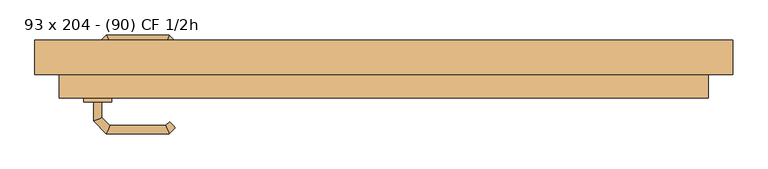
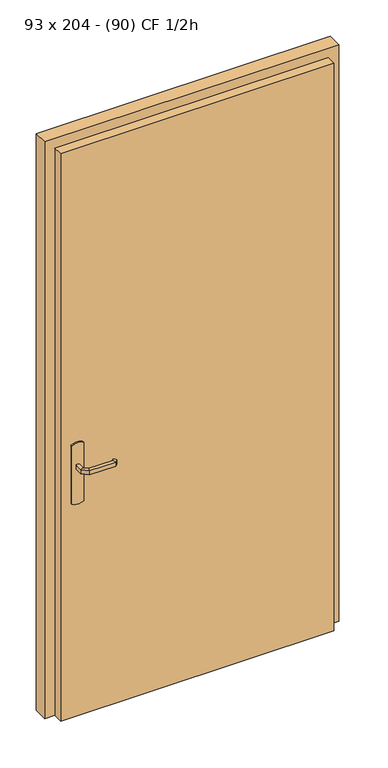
"""IFC4 building model written with IfcOpenShell, lengths in millimetres: door geometry, C&L Int. simple vantail (Angle variable + Dormant fixe) : 93 x 204 - (90) CF 1/2h."""

from ifc_helpers import new_model, si_unit, point, frame, frame_2d, origin, origin_with_axes, place, context, project, spatial, polyline, circle_curve, ellipse_curve, trimmed, segment, composite_curve, outline, extrude, faceted_brep, source, transform, mapped, element, save
from ifc_brep_helpers import plane_surface, cylinder_surface, advanced_brep


def door_93_x_204_90_cf_1_2h_cdce06b2(model_context):
    return source(origin(), model_context, "Body", "SolidModel", [
        advanced_brep(
        [(-404.0, -38.0, 893.0), (-404.0, -38.0, 907.0), (-416.0, -38.0, 907.0), (-416.0, -38.0, 893.0), (-404.0, -15.5147955, 893.0), (-404.0, -15.5147955, 907.0), (-416.0, -10.5442327, 907.0), (-416.0, -10.5442327, 893.0), (-392.5147186, -4.0295141, 893.0), (-392.5147186, -4.0295141, 907.0), (-397.4852814, 7.9704859, 907.0), (-397.4852814, 7.9704859, 893.0), (-312.4394977, -4.0295141, 893.0), (-312.4394977, -4.0295141, 907.0), (-307.468935, 7.9704859, 907.0), (-307.468935, 7.9704859, 893.0), (-307.1257892, -9.3432226, 893.0), (-298.6405078, -0.8579412, 893.0), (-298.6405078, -0.8579412, 907.0), (-307.1257892, -9.3432226, 907.0)],
        [
            (0, 1),
            (1, 2, circle_curve(frame((-410.0, -38.0, 886.9542278), z_axis=(0.0, -1.0, 0.0), x_axis=(-1.0, 0.0, 0.0)), 20.9244589)),
            (2, 3),
            (3, 0, circle_curve(frame((-410.0, -38.0, 913.0457722), z_axis=(0.0, -1.0, 0.0), x_axis=(-1.0, 0.0, 0.0)), 20.9244589)),
            (0, 4),
            (4, 5),
            (5, 1),
            (5, 6, ellipse_curve(frame((-410.0, -13.0295141, 886.9542278), z_axis=(-0.3826834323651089, -0.9238795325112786, 0.0), x_axis=(0.9238795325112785, -0.3826834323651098, 0.0)), 22.6484711, 20.9244589)),
            (6, 2),
            (6, 7),
            (7, 3),
            (7, 4, ellipse_curve(frame((-410.0, -13.0295141, 913.0457722), z_axis=(-0.3826834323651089, -0.9238795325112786, 0.0), x_axis=(0.9238795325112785, -0.3826834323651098, 0.0)), 22.6484711, 20.9244589)),
            (4, 8),
            (8, 9),
            (9, 5),
            (9, 10, ellipse_curve(frame((-395.0, 1.9704859, 886.9542278), z_axis=(-0.9238795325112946, -0.38268343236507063, 0.0), x_axis=(0.3826834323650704, -0.9238795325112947, 0.0)), 22.6484711, 20.9244589)),
            (10, 6),
            (10, 11),
            (11, 7),
            (11, 8, ellipse_curve(frame((-395.0, 1.9704859, 913.0457722), z_axis=(-0.9238795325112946, -0.38268343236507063, 0.0), x_axis=(0.3826834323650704, -0.9238795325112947, 0.0)), 22.6484711, 20.9244589)),
            (8, 12),
            (12, 13),
            (13, 9),
            (13, 14, ellipse_curve(frame((-309.9542163, 1.9704859, 886.9542278), z_axis=(-0.9238795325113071, 0.38268343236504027, 0.0), x_axis=(-0.38268343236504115, -0.9238795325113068, 0.0)), 22.6484711, 20.9244589)),
            (14, 10),
            (14, 15),
            (15, 11),
            (15, 12, ellipse_curve(frame((-309.9542163, 1.9704859, 913.0457722), z_axis=(-0.9238795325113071, 0.38268343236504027, 0.0), x_axis=(-0.38268343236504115, -0.9238795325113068, 0.0)), 22.6484711, 20.9244589)),
            (16, 17, circle_curve(frame((-302.8831485, -5.1005819, 913.0457722), z_axis=(0.7071067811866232, -0.7071067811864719, 0.0), x_axis=(0.7071067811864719, 0.7071067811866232, 0.0)), 20.9244589)),
            (17, 18),
            (18, 19, circle_curve(frame((-302.8831485, -5.1005819, 886.9542278), z_axis=(0.7071067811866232, -0.7071067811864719, 0.0), x_axis=(0.7071067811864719, 0.7071067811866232, 0.0)), 20.9244589)),
            (19, 16),
            (12, 16),
            (19, 13),
            (18, 14),
            (17, 15),
        ],
        [
            plane_surface(frame((-419.2195445, -38.0, 900.0), z_axis=(0.0, -1.0, 0.0), x_axis=(0.0, 0.0, 1.0))),
            plane_surface(frame((-404.0, -38.0, 893.0), z_axis=(1.0, 0.0, 0.0), x_axis=(0.0, 1.0, 0.0))),
            cylinder_surface(frame((-410.0, -38.0, 886.9542278), z_axis=(0.0, -1.0, 0.0), x_axis=(-1.0, 0.0, 0.0)), 20.9244589),
            plane_surface(frame((-416.0, -38.0, 907.0), z_axis=(-1.0, 0.0, 0.0), x_axis=(0.0, 1.0, 0.0))),
            cylinder_surface(frame((-410.0, -38.0, 913.0457722), z_axis=(0.0, -1.0, 0.0), x_axis=(-1.0, 0.0, 0.0)), 20.9244589),
            plane_surface(frame((-404.0, -15.5147955, 893.0), z_axis=(0.707106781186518, -0.707106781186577, 0.0), x_axis=(0.707106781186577, 0.707106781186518, 0.0))),
            cylinder_surface(frame((-410.0, -13.0295141, 886.9542278), z_axis=(-0.7071067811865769, -0.7071067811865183, 0.0), x_axis=(-0.7071067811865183, 0.7071067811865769, 0.0)), 20.9244589),
            plane_surface(frame((-416.0, -10.5442327, 907.0), z_axis=(-0.7071067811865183, 0.7071067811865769, 0.0), x_axis=(0.7071067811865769, 0.7071067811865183, 0.0))),
            cylinder_surface(frame((-410.0, -13.0295141, 913.0457722), z_axis=(-0.7071067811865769, -0.7071067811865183, 0.0), x_axis=(-0.7071067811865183, 0.7071067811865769, 0.0)), 20.9244589),
            plane_surface(frame((-392.5147186, -4.0295141, 893.0), z_axis=(0.0, -1.0, 0.0), x_axis=(1.0, 0.0, 0.0))),
            cylinder_surface(frame((-395.0, 1.9704859, 886.9542278), z_axis=(-1.0, 0.0, 0.0), x_axis=(0.0, 1.0, 0.0)), 20.9244589),
            plane_surface(frame((-397.4852814, 7.9704859, 907.0), z_axis=(0.0, 1.0, 0.0), x_axis=(1.0, 0.0, 0.0))),
            cylinder_surface(frame((-395.0, 1.9704859, 913.0457722), z_axis=(-1.0, 0.0, 0.0), x_axis=(0.0, 1.0, 0.0)), 20.9244589),
            plane_surface(frame((-302.8831485, -5.1005819, 890.7804555), z_axis=(0.7071067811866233, -0.7071067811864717, 0.0), x_axis=(0.7071067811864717, 0.7071067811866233, 0.0))),
            plane_surface(frame((-312.4394977, -4.0295141, 893.0), z_axis=(-0.7071067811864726, -0.7071067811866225, 0.0), x_axis=(0.7071067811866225, -0.7071067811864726, 0.0))),
            cylinder_surface(frame((-309.9542163, 1.9704859, 886.9542278), z_axis=(-0.7071067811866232, 0.7071067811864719, 0.0), x_axis=(0.7071067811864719, 0.7071067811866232, 0.0)), 20.9244589),
            plane_surface(frame((-307.468935, 7.9704859, 907.0), z_axis=(0.7071067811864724, 0.7071067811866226, 0.0), x_axis=(0.7071067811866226, -0.7071067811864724, 0.0))),
            cylinder_surface(frame((-309.9542163, 1.9704859, 913.0457722), z_axis=(-0.7071067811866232, 0.7071067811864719, 0.0), x_axis=(0.7071067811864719, 0.7071067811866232, 0.0)), 20.9244589),
        ],
        [
            (0, [[1, 2, 3, 4]]),
            (1, [[-1, 5, 6, 7]]),
            (2, [[-2, -7, 8, 9]]),
            (3, [[-3, -9, 10, 11]]),
            (4, [[-4, -11, 12, -5]]),
            (5, [[-6, 13, 14, 15]]),
            (6, [[-8, -15, 16, 17]]),
            (7, [[-10, -17, 18, 19]]),
            (8, [[-12, -19, 20, -13]]),
            (9, [[-14, 21, 22, 23]]),
            (10, [[-16, -23, 24, 25]]),
            (11, [[-18, -25, 26, 27]]),
            (12, [[-20, -27, 28, -21]]),
            (13, [[29, 30, 31, 32]]),
            (14, [[-22, 33, -32, 34]]),
            (15, [[-24, -34, -31, 35]]),
            (16, [[-26, -35, -30, 36]]),
            (17, [[-28, -36, -29, -33]]),
        ],
    ),
        advanced_brep(
        [(-416.0, -88.0, 907.0), (-404.0, -88.0, 907.0), (-404.0, -88.0, 893.0), (-416.0, -88.0, 893.0), (-416.0, -115.6509507, 907.0), (-404.0, -110.680388, 907.0), (-404.0, -110.680388, 893.0), (-416.0, -115.6509507, 893.0), (-397.62279, -134.0281607, 907.0), (-392.6522273, -122.0281607, 907.0), (-392.6522273, -122.0281607, 893.0), (-397.62279, -134.0281607, 893.0), (-307.496078, -134.0281607, 907.0), (-312.4666408, -122.0281607, 907.0), (-312.4666408, -122.0281607, 893.0), (-307.496078, -134.0281607, 893.0), (-298.6676509, -125.1997336, 907.0), (-298.6676509, -125.1997336, 893.0), (-307.1529323, -116.7144522, 893.0), (-307.1529323, -116.7144522, 907.0)],
        [
            (0, 1, circle_curve(frame((-410.0, -88.0, 886.9542278), z_axis=(0.0, 1.0, 0.0), x_axis=(1.0, 0.0, 0.0)), 20.9244589)),
            (1, 2),
            (2, 3, circle_curve(frame((-410.0, -88.0, 913.0457722), z_axis=(0.0, 1.0, 0.0), x_axis=(1.0, 0.0, 0.0)), 20.9244589)),
            (3, 0),
            (0, 4),
            (4, 5, ellipse_curve(frame((-410.0, -113.1656693, 886.9542278), z_axis=(-0.3826834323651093, 0.9238795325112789, 0.0), x_axis=(0.9238795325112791, 0.38268343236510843, 0.0)), 22.6484711, 20.9244589)),
            (5, 1),
            (5, 6),
            (6, 2),
            (6, 7, ellipse_curve(frame((-410.0, -113.1656693, 913.0457722), z_axis=(-0.3826834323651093, 0.9238795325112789, 0.0), x_axis=(0.9238795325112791, 0.38268343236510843, 0.0)), 22.6484711, 20.9244589)),
            (7, 3),
            (7, 4),
            (4, 8),
            (8, 9, ellipse_curve(frame((-395.1375086, -128.0281607, 886.9542278), z_axis=(-0.9238795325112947, 0.38268343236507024, 0.0), x_axis=(0.3826834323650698, 0.9238795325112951, 0.0)), 22.6484711, 20.9244589)),
            (9, 5),
            (9, 10),
            (10, 6),
            (10, 11, ellipse_curve(frame((-395.1375086, -128.0281607, 913.0457722), z_axis=(-0.9238795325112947, 0.38268343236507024, 0.0), x_axis=(0.3826834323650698, 0.9238795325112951, 0.0)), 22.6484711, 20.9244589)),
            (11, 7),
            (11, 8),
            (8, 12),
            (12, 13, ellipse_curve(frame((-309.9813594, -128.0281607, 886.9542278), z_axis=(-0.9238795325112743, -0.3826834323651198, 0.0), x_axis=(-0.38268343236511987, 0.9238795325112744, 0.0)), 22.6484711, 20.9244589)),
            (13, 9),
            (13, 14),
            (14, 10),
            (14, 15, ellipse_curve(frame((-309.9813594, -128.0281607, 913.0457722), z_axis=(-0.9238795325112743, -0.3826834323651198, 0.0), x_axis=(-0.38268343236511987, 0.9238795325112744, 0.0)), 22.6484711, 20.9244589)),
            (15, 11),
            (15, 12),
            (16, 17),
            (17, 18, circle_curve(frame((-302.9102916, -120.9570929, 913.0457722), z_axis=(0.7071067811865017, 0.7071067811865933, 0.0), x_axis=(-0.7071067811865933, 0.7071067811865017, 0.0)), 20.9244589)),
            (18, 19),
            (19, 16, circle_curve(frame((-302.9102916, -120.9570929, 886.9542278), z_axis=(0.7071067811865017, 0.7071067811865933, 0.0), x_axis=(-0.7071067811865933, 0.7071067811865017, 0.0)), 20.9244589)),
            (12, 16),
            (19, 13),
            (18, 14),
            (17, 15),
        ],
        [
            plane_surface(frame((-419.2195445, -88.0, 900.0), z_axis=(0.0, 1.0, 0.0), x_axis=(0.0, 0.0, -1.0))),
            cylinder_surface(frame((-410.0, -88.0, 886.9542278), z_axis=(0.0, 1.0, 0.0), x_axis=(1.0, 0.0, 0.0)), 20.9244589),
            plane_surface(frame((-404.0, -88.0, 907.0), z_axis=(1.0, 0.0, 0.0), x_axis=(0.0, -1.0, 0.0))),
            cylinder_surface(frame((-410.0, -88.0, 913.0457722), z_axis=(0.0, 1.0, 0.0), x_axis=(1.0, 0.0, 0.0)), 20.9244589),
            plane_surface(frame((-416.0, -88.0, 893.0), z_axis=(-1.0, 0.0, 0.0), x_axis=(0.0, -1.0, 0.0))),
            cylinder_surface(frame((-410.0, -113.1656693, 886.9542278), z_axis=(-0.7071067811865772, 0.7071067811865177, 0.0), x_axis=(0.7071067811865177, 0.7071067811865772, 0.0)), 20.9244589),
            plane_surface(frame((-404.0, -110.680388, 907.0), z_axis=(0.7071067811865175, 0.7071067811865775, 0.0), x_axis=(0.7071067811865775, -0.7071067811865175, 0.0))),
            cylinder_surface(frame((-410.0, -113.1656693, 913.0457722), z_axis=(-0.7071067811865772, 0.7071067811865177, 0.0), x_axis=(0.7071067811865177, 0.7071067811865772, 0.0)), 20.9244589),
            plane_surface(frame((-416.0, -115.6509507, 893.0), z_axis=(-0.7071067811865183, -0.7071067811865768, 0.0), x_axis=(0.7071067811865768, -0.7071067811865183, 0.0))),
            cylinder_surface(frame((-395.1375086, -128.0281607, 886.9542278), z_axis=(-1.0, 0.0, 0.0), x_axis=(0.0, 1.0, 0.0)), 20.9244589),
            plane_surface(frame((-392.6522273, -122.0281607, 907.0), z_axis=(0.0, 1.0, 0.0), x_axis=(1.0, 0.0, 0.0))),
            cylinder_surface(frame((-395.1375086, -128.0281607, 913.0457722), z_axis=(-1.0, 0.0, 0.0), x_axis=(0.0, 1.0, 0.0)), 20.9244589),
            plane_surface(frame((-397.62279, -134.0281607, 893.0), z_axis=(0.0, -1.0, 0.0), x_axis=(1.0, 0.0, 0.0))),
            plane_surface(frame((-302.9102916, -120.9570929, 909.2195445), z_axis=(0.7071067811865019, 0.7071067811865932, 0.0), x_axis=(0.7071067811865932, -0.7071067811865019, 0.0))),
            cylinder_surface(frame((-309.9813594, -128.0281607, 886.9542278), z_axis=(-0.7071067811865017, -0.7071067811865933, 0.0), x_axis=(-0.7071067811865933, 0.7071067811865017, 0.0)), 20.9244589),
            plane_surface(frame((-312.4666408, -122.0281607, 907.0), z_axis=(-0.7071067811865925, 0.7071067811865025, 0.0), x_axis=(0.7071067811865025, 0.7071067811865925, 0.0))),
            cylinder_surface(frame((-309.9813594, -128.0281607, 913.0457722), z_axis=(-0.7071067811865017, -0.7071067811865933, 0.0), x_axis=(-0.7071067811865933, 0.7071067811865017, 0.0)), 20.9244589),
            plane_surface(frame((-307.496078, -134.0281607, 893.0), z_axis=(0.707106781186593, -0.7071067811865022, 0.0), x_axis=(0.7071067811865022, 0.707106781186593, 0.0))),
        ],
        [
            (0, [[1, 2, 3, 4]]),
            (1, [[-1, 5, 6, 7]]),
            (2, [[-2, -7, 8, 9]]),
            (3, [[-3, -9, 10, 11]]),
            (4, [[-4, -11, 12, -5]]),
            (5, [[-6, 13, 14, 15]]),
            (6, [[-8, -15, 16, 17]]),
            (7, [[-10, -17, 18, 19]]),
            (8, [[-12, -19, 20, -13]]),
            (9, [[-14, 21, 22, 23]]),
            (10, [[-16, -23, 24, 25]]),
            (11, [[-18, -25, 26, 27]]),
            (12, [[-20, -27, 28, -21]]),
            (13, [[29, 30, 31, 32]]),
            (14, [[-22, 33, -32, 34]]),
            (15, [[-24, -34, -31, 35]]),
            (16, [[-26, -35, -30, 36]]),
            (17, [[-28, -36, -29, -33]]),
        ],
    ),
        extrude(outline(composite_curve([segment(trimmed(circle_curve(frame_2d((945.3589838, -410.0)), 40.0), [point((980.0, -390.0))], [point((980.0, -430.0))], False, "CARTESIAN"), True, "CONTINUOUS"), segment(polyline([(980.0, -430.0), (770.0, -430.0)]), True, "CONTINUOUS"), segment(trimmed(circle_curve(frame_2d((804.6410162, -410.0)), 40.0), [point((770.0, -430.0))], [point((770.0, -390.0))], False, "CARTESIAN"), True, "CONTINUOUS"), segment(polyline([(770.0, -390.0), (980.0, -390.0)]), True, "CONTINUOUS")], self_intersect=False)), frame((0.0, -43.0, 0.0), z_axis=(0.0, 1.0, 0.0), x_axis=(0.0, 0.0, 1.0)), (0.0, 0.0, 1.0), 5.0),
        extrude(outline(composite_curve([segment(trimmed(circle_curve(frame_2d((804.6410162, -410.0)), 40.0), [point((770.0, -430.0))], [point((770.0, -390.0))], False, "CARTESIAN"), True, "CONTINUOUS"), segment(polyline([(770.0, -390.0), (980.0, -390.0)]), True, "CONTINUOUS"), segment(trimmed(circle_curve(frame_2d((945.3589838, -410.0)), 40.0), [point((980.0, -390.0))], [point((980.0, -430.0))], False, "CARTESIAN"), True, "CONTINUOUS"), segment(polyline([(980.0, -430.0), (770.0, -430.0)]), True, "CONTINUOUS")], self_intersect=False)), frame((0.0, -88.0, 0.0), z_axis=(0.0, 1.0, 0.0), x_axis=(0.0, 0.0, 1.0)), (0.0, 0.0, 1.0), 5.0),
        extrude(outline(polyline([(465.0, -83.0), (-465.0, -83.0), (-465.0, -43.0), (465.0, -43.0), (465.0, -83.0)])), origin_with_axes(), (0.0, 0.0, 1.0), 2040.0),
        faceted_brep([(500.0, 0.0, 0.0), (500.0, -49.0, 0.0), (465.0, -49.0, 0.0), (465.0, -17.0, 0.0), (450.0, -17.0, 0.0), (450.0, 0.0, 0.0), (500.0, 0.0, 2075.0), (500.0, -49.0, 2075.0), (-500.0, -49.0, 2075.0), (-500.0, -49.0, 0.0), (-465.0, -49.0, 0.0), (-465.0, -49.0, 2040.0), (465.0, -49.0, 2040.0), (465.0, -17.0, 2040.0), (-465.0, -17.0, 2040.0), (-465.0, -17.0, 0.0), (-450.0, -17.0, 0.0), (-450.0, -17.0, 2025.0), (450.0, -17.0, 2025.0), (450.0, 0.0, 2025.0), (-450.0, 0.0, 2025.0), (-450.0, 0.0, 0.0), (-500.0, 0.0, 0.0), (-500.0, 0.0, 2075.0)], [[[0, 1, 2, 3, 4, 5]], [[1, 0, 6, 7]], [[2, 1, 7, 8, 9, 10, 11, 12]], [[3, 2, 12, 13]], [[4, 3, 13, 14, 15, 16, 17, 18]], [[5, 4, 18, 19]], [[0, 5, 19, 20, 21, 22, 23, 6]], [[8, 23, 22, 9]], [[22, 21, 16, 15, 10, 9]], [[14, 11, 10, 15]], [[20, 17, 16, 21]], [[7, 6, 23, 8]], [[13, 12, 11, 14]], [[19, 18, 17, 20]]]),
    ])


if __name__ == "__main__":
    model = new_model("IFC4")
    model_context = context("Model", 3, world=origin())
    ifc_project = project(units=[si_unit("LENGTHUNIT", "METRE", prefix="MILLI")], contexts=[model_context])
    site = spatial("IfcSite", under=ifc_project)
    building = spatial("IfcBuilding", under=site)
    placement = place(None, origin())
    door_93_x_204_90_cf_1_2h_shape = door_93_x_204_90_cf_1_2h_cdce06b2(model_context)
    element("IfcDoor", 1, ObjectType="C&L Int. simple vantail (Angle variable + Dormant fixe) : 93 x 204 - (90) CF 1/2h", at=placement, inside=building, context=model_context, shape_type="MappedRepresentation", body=[
        mapped(door_93_x_204_90_cf_1_2h_shape, transform((0.0, 0.0, 0.0), x_axis=(1.0, 0.0, 0.0), y_axis=(0.0, 1.0, 0.0), z_axis=(0.0, 0.0, 1.0))),
    ])
    save(model, "model.ifc")
